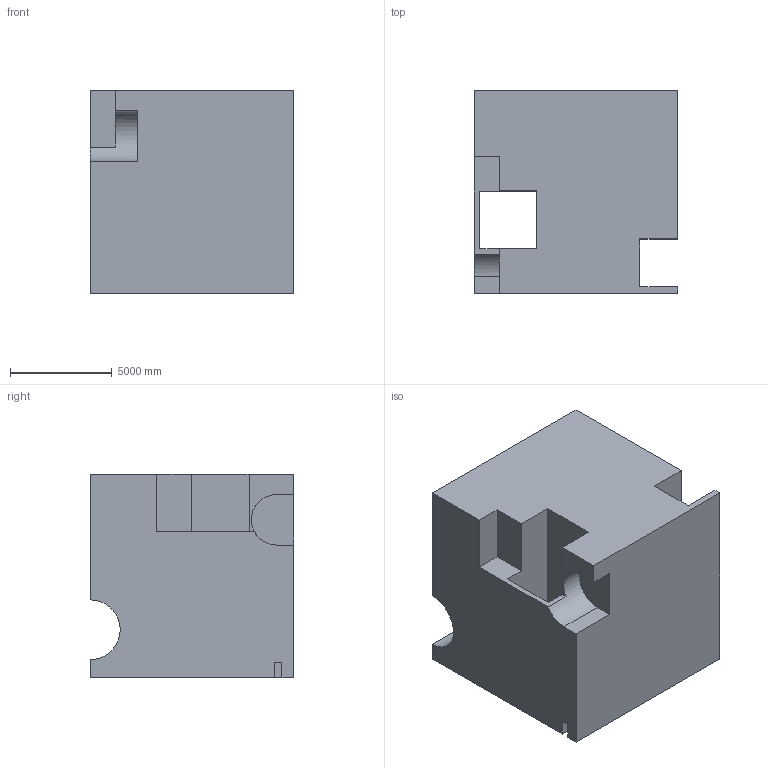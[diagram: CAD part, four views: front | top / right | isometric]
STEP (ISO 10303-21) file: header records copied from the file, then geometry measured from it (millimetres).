
FILE_DESCRIPTION (( 'STEP AP203' ), '1' );
FILE_NAME ('54.STEP', '2022-09-01T11:48:26', ( 'user' ), ( '' ), 'SwSTEP 2.0', 'SolidWorks 2021', '' );
FILE_SCHEMA (( 'CONFIG_CONTROL_DESIGN' ));
Length unit declared in the file: centimetre
Products named in the file (1): 54
Bounding box: 10000 x 10000 x 10000 mm (x, y, z)
Volume: 818219464380.3 mm3; surface area: 728300270.7 mm2
Topology: 1 solids, 1 shells, 28 faces, 81 edges, 54 vertices
Faces by surface type: plane 26, cylinder 2
Entity records: 991 total; most frequent: CARTESIAN_POINT 164, ORIENTED_EDGE 162, DIRECTION 144, EDGE_CURVE 81, LINE 76, VECTOR 76, VERTEX_POINT 54, AXIS2_PLACEMENT_3D 34
